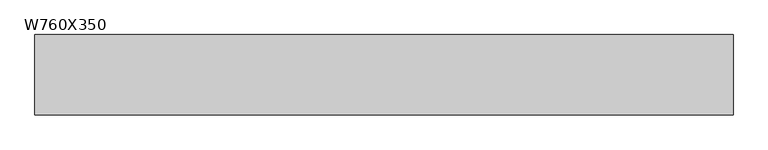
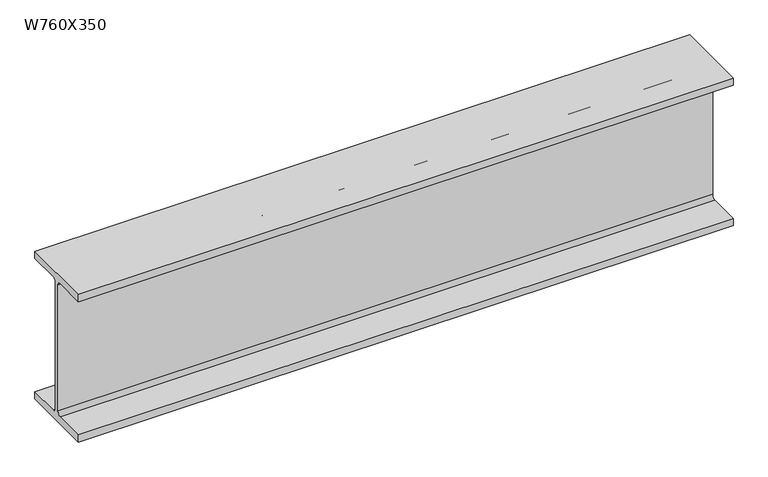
"""IFC4 building model written with IfcOpenShell, lengths in millimetres: beam geometry, M_W Shapes : W760X350."""

from ifc_helpers import new_model, si_unit, point, frame, frame_2d, origin, place, context, project, spatial, polyline, circle_curve, trimmed, segment, composite_curve, outline, extrude, source, transform, mapped, element, save


def w760x350_cb514dfd(model_context):
    return source(origin(), model_context, "Body", "SweptSolid", [
        extrude(outline(composite_curve([segment(polyline([(192.0, -359.4), (192.0, -397.5), (-192.0, -397.5), (-192.0, -359.4), (-30.65, -359.4)]), True, "CONTINUOUS"), segment(trimmed(circle_curve(frame_2d((-30.65, -339.3)), 20.1), [point((-30.65, -359.4))], [point((-10.55, -339.3))], True, "CARTESIAN"), True, "CONTINUOUS"), segment(polyline([(-10.55, -339.3), (-10.55, 339.3)]), True, "CONTINUOUS"), segment(trimmed(circle_curve(frame_2d((-30.65, 339.3)), 20.1), [point((-10.55, 339.3))], [point((-30.65, 359.4))], True, "CARTESIAN"), True, "CONTINUOUS"), segment(polyline([(-30.65, 359.4), (-192.0, 359.4), (-192.0, 397.5), (192.0, 397.5), (192.0, 359.4), (30.65, 359.4)]), True, "CONTINUOUS"), segment(trimmed(circle_curve(frame_2d((30.65, 339.3)), 20.1), [point((30.65, 359.4))], [point((10.55, 339.3))], True, "CARTESIAN"), True, "CONTINUOUS"), segment(polyline([(10.55, 339.3), (10.55, -339.3)]), True, "CONTINUOUS"), segment(trimmed(circle_curve(frame_2d((30.65, -339.3)), 20.1), [point((10.55, -339.3))], [point((30.65, -359.4))], True, "CARTESIAN"), True, "CONTINUOUS"), segment(polyline([(30.65, -359.4), (192.0, -359.4)]), True, "CONTINUOUS")], self_intersect=False)), frame((-1803.9, 0.0, 0.0), z_axis=(1.0, 0.0, 0.0), x_axis=(0.0, 1.0, 0.0)), (0.0, 0.0, 1.0), 3335.5),
    ])


if __name__ == "__main__":
    model = new_model("IFC4")
    model_context = context("Model", 3, world=origin())
    ifc_project = project(units=[si_unit("LENGTHUNIT", "METRE", prefix="MILLI")], contexts=[model_context])
    site = spatial("IfcSite", under=ifc_project)
    building = spatial("IfcBuilding", under=site)
    placement = place(None, origin())
    w760x350_shape = w760x350_cb514dfd(model_context)
    element("IfcBeam", 1, ObjectType="M_W Shapes : W760X350", at=placement, inside=building, context=model_context, shape_type="MappedRepresentation", body=[
        mapped(w760x350_shape, transform((0.0, 0.0, 0.0), x_axis=(1.0, 0.0, 0.0), y_axis=(0.0, 1.0, 0.0), z_axis=(0.0, 0.0, 1.0))),
    ])
    save(model, "model.ifc")
